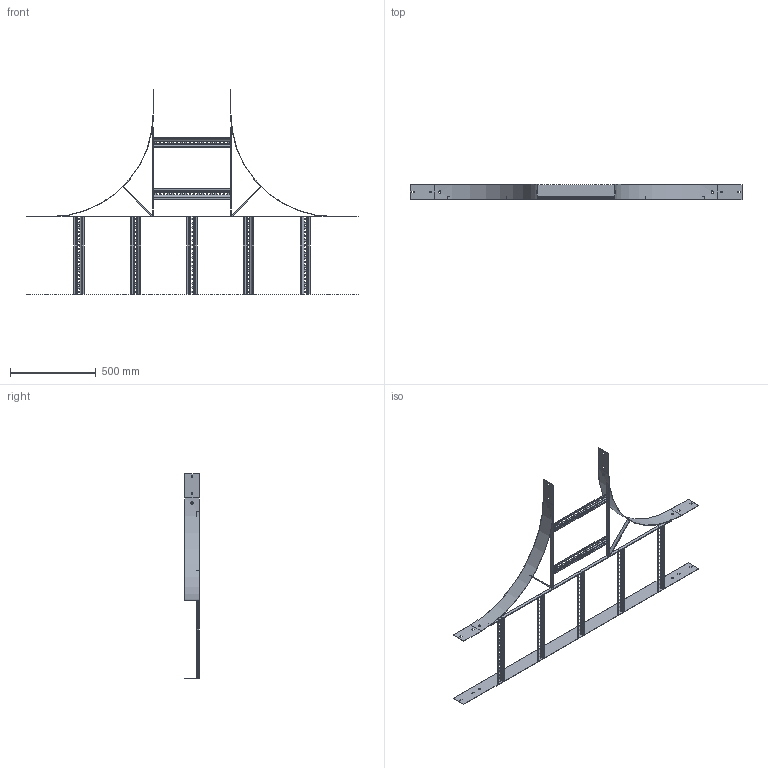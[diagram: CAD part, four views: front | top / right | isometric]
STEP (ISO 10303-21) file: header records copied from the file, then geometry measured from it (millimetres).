
FILE_DESCRIPTION (( 'STEP AP203' ), '1' );
FILE_NAME ('N2 T 4506.STEP', '2024-08-27T22:55:32', ( '' ), ( '' ), 'SwSTEP 2.0', 'SolidWorks 2023', '' );
FILE_SCHEMA (( 'CONFIG_CONTROL_DESIGN' ));
Length unit declared in the file: millimetre
Products named in the file (7): N2 RADIUS PLATE_N1-600 IR; Ladder Tee 20x5 Flat Bar_1495; Ladder Tee 20x5 Flat Bar_518; N2 Back Plate_1950; N2 T 4506; Ladder Tee 20x5 Flat Bar_240; Ladder Rung_Ladder Rung -  450mm
Assembly tree (15 placements, depth 2):
  N2 T 4506
    N2 Back Plate_1950
    Ladder Rung_Ladder Rung -  450mm  x7
    Ladder Tee 20x5 Flat Bar_1495
    N2 RADIUS PLATE_N1-600 IR  x2
    Ladder Tee 20x5 Flat Bar_518  x2
    Ladder Tee 20x5 Flat Bar_240  x2
Bounding box: 1935 x 87 x 1194.5 mm (x, y, z)
Volume: 1395192.5 mm3; surface area: 1373092.9 mm2
Topology: 15 solids, 15 shells, 922 faces, 2436 edges, 1544 vertices
Faces by surface type: plane 850, cylinder 72
Entity records: 7205 total; most frequent: CARTESIAN_POINT 1374, ORIENTED_EDGE 1000, DIRECTION 940, EDGE_CURVE 500, LINE 464, VECTOR 464, VERTEX_POINT 320, EDGE_LOOP 250
